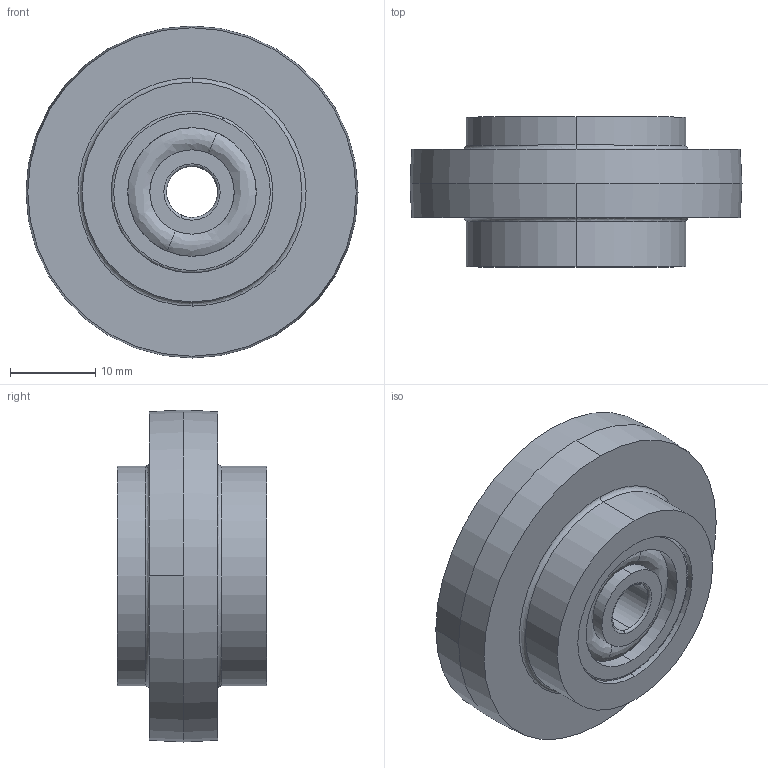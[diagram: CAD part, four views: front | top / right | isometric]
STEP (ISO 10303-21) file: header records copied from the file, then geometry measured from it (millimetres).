
FILE_DESCRIPTION (( 'STEP AP214' ), '1' );
FILE_NAME ('6.04.spr39.STEP', '2015-06-08T09:38:34', ( '' ), ( '' ), 'SwSTEP 2.0', 'SolidWorks 2015', '' );
FILE_SCHEMA (( 'AUTOMOTIVE_DESIGN' ));
Length unit declared in the file: millimetre
Products named in the file (5): fath_093020_02; fath_093020_01; 6.04.spr39; fath_093020_04; fath_093020_03
Assembly tree (4 placements, depth 2):
  6.04.spr39
    fath_093020_01
    fath_093020_02
    fath_093020_03
    fath_093020_04
Bounding box: 39 x 17.6 x 39 mm (x, y, z)
Volume: 13079.6 mm3; surface area: 7622.6 mm2
Topology: 4 solids, 4 shells, 95 faces, 228 edges, 149 vertices
Faces by surface type: cylinder 38, bspline 28, plane 16, cone 13
Entity records: 4053 total; most frequent: CARTESIAN_POINT 1631, DIRECTION 513, ORIENTED_EDGE 456, AXIS2_PLACEMENT_3D 231, EDGE_CURVE 228, CIRCLE 157, VERTEX_POINT 149, EDGE_LOOP 111
